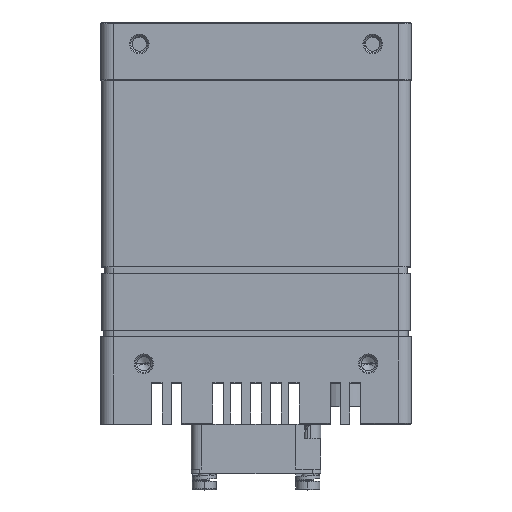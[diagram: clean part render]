
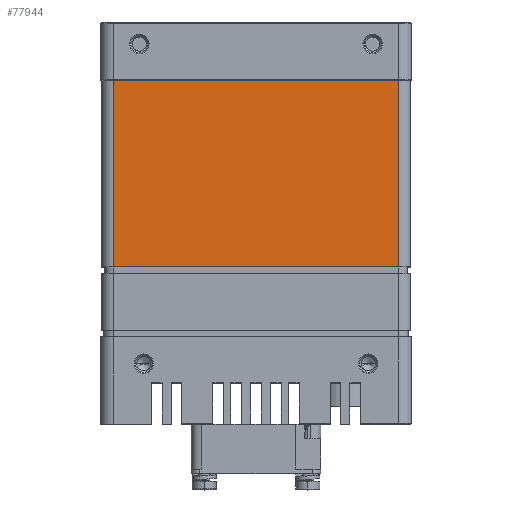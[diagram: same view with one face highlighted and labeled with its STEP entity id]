
A CAD part, top view. The second image highlights one B-rep face of the part: STEP entity #77944.
In plain terms, the highlighted planar face has unit normal (0, 0, 1).
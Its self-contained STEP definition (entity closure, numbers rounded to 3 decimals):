
#22208=DIRECTION('',(1.,0.,0.));
#22209=VECTOR('',#22208,66.);
#22210=CARTESIAN_POINT('',(-33.,-55.2,35.8));
#22211=LINE('',#22210,#22209);
#23117=DIRECTION('',(0.,-1.,0.));
#23118=VECTOR('',#23117,43.1);
#23119=CARTESIAN_POINT('',(-33.,-12.1,35.8));
#23120=LINE('',#23119,#23118);
#24109=DIRECTION('',(0.,1.,0.));
#24110=VECTOR('',#24109,43.1);
#24111=CARTESIAN_POINT('',(33.,-55.2,35.8));
#24112=LINE('',#24111,#24110);
#24139=DIRECTION('',(-1.,0.,0.));
#24140=VECTOR('',#24139,66.);
#24141=CARTESIAN_POINT('',(33.,-12.1,35.8));
#24142=LINE('',#24141,#24140);
#50347=CARTESIAN_POINT('',(-33.,-55.2,35.8));
#50348=VERTEX_POINT('',#50347);
#50349=CARTESIAN_POINT('',(33.,-55.2,35.8));
#50350=VERTEX_POINT('',#50349);
#50509=CARTESIAN_POINT('',(-33.,-12.1,35.8));
#50510=VERTEX_POINT('',#50509);
#50511=CARTESIAN_POINT('',(33.,-12.1,35.8));
#50512=VERTEX_POINT('',#50511);
#77933=CARTESIAN_POINT('',(33.,-10.1,35.8));
#77934=DIRECTION('',(0.,0.,-1.));
#77935=DIRECTION('',(-1.,0.,0.));
#77936=AXIS2_PLACEMENT_3D('',#77933,#77934,#77935);
#77937=PLANE('',#77936);
#77938=ORIENTED_EDGE('',*,*,#77924,.F.);
#77939=ORIENTED_EDGE('',*,*,#77899,.F.);
#77940=ORIENTED_EDGE('',*,*,#76365,.F.);
#77941=ORIENTED_EDGE('',*,*,#77084,.F.);
#77942=EDGE_LOOP('',(#77938,#77939,#77940,#77941));
#77943=FACE_OUTER_BOUND('',#77942,.F.);
#77944=ADVANCED_FACE('',(#77943),#77937,.F.);
#76365=EDGE_CURVE('',#50348,#50350,#22211,.T.);
#77084=EDGE_CURVE('',#50510,#50348,#23120,.T.);
#77899=EDGE_CURVE('',#50350,#50512,#24112,.T.);
#77924=EDGE_CURVE('',#50512,#50510,#24142,.T.);
